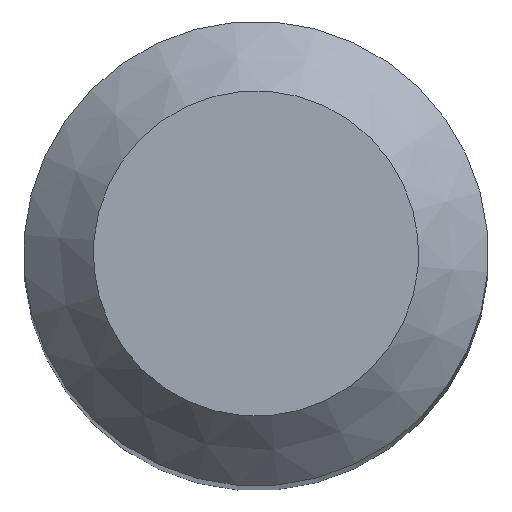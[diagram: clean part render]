
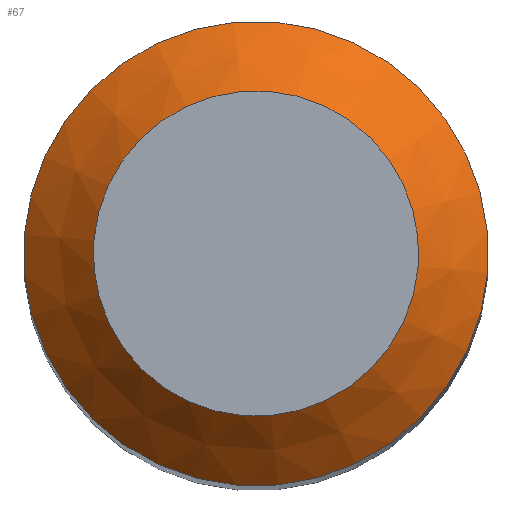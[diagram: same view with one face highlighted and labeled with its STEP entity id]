
A CAD part, top view. The second image highlights one B-rep face of the part: STEP entity #67.
In plain terms, the highlighted conical face has half-angle 45 degrees and reference radius 3 mm.
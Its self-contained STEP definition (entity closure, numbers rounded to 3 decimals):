
#48=CONICAL_SURFACE('',#185,3.,45.);
#59=FACE_BOUND('',#86,.T.);
#60=FACE_BOUND('',#87,.T.);
#67=ADVANCED_FACE('',(#59,#60),#48,.T.);
#86=EDGE_LOOP('',(#100));
#87=EDGE_LOOP('',(#101));
#100=ORIENTED_EDGE('',*,*,#118,.F.);
#101=ORIENTED_EDGE('',*,*,#117,.T.);
#110=VERTEX_POINT('',#255);
#111=VERTEX_POINT('',#258);
#117=EDGE_CURVE('',#110,#110,#124,.T.);
#118=EDGE_CURVE('',#111,#111,#125,.T.);
#124=CIRCLE('',#182,3.);
#125=CIRCLE('',#184,2.1);
#182=AXIS2_PLACEMENT_3D('',#254,#219,#220);
#184=AXIS2_PLACEMENT_3D('',#257,#223,#224);
#185=AXIS2_PLACEMENT_3D('',#259,#225,#226);
#219=DIRECTION('',(0.,0.,1.));
#220=DIRECTION('',(0.997,-0.081,0.));
#223=DIRECTION('',(0.,0.,1.));
#224=DIRECTION('',(0.997,-0.081,0.));
#225=DIRECTION('',(0.,0.,-1.));
#226=DIRECTION('',(-0.997,0.081,0.));
#254=CARTESIAN_POINT('',(0.,0.,-0.9));
#255=CARTESIAN_POINT('',(2.99,-0.242,-0.9));
#257=CARTESIAN_POINT('',(0.,0.,0.));
#258=CARTESIAN_POINT('',(2.093,-0.169,0.));
#259=CARTESIAN_POINT('',(0.,0.,-0.9));
